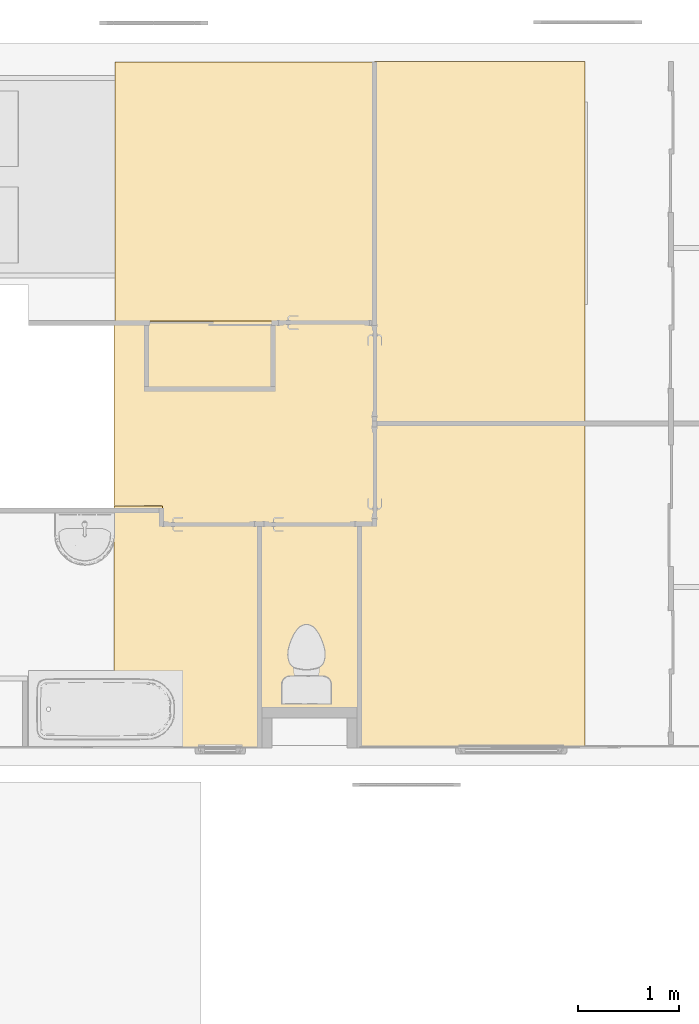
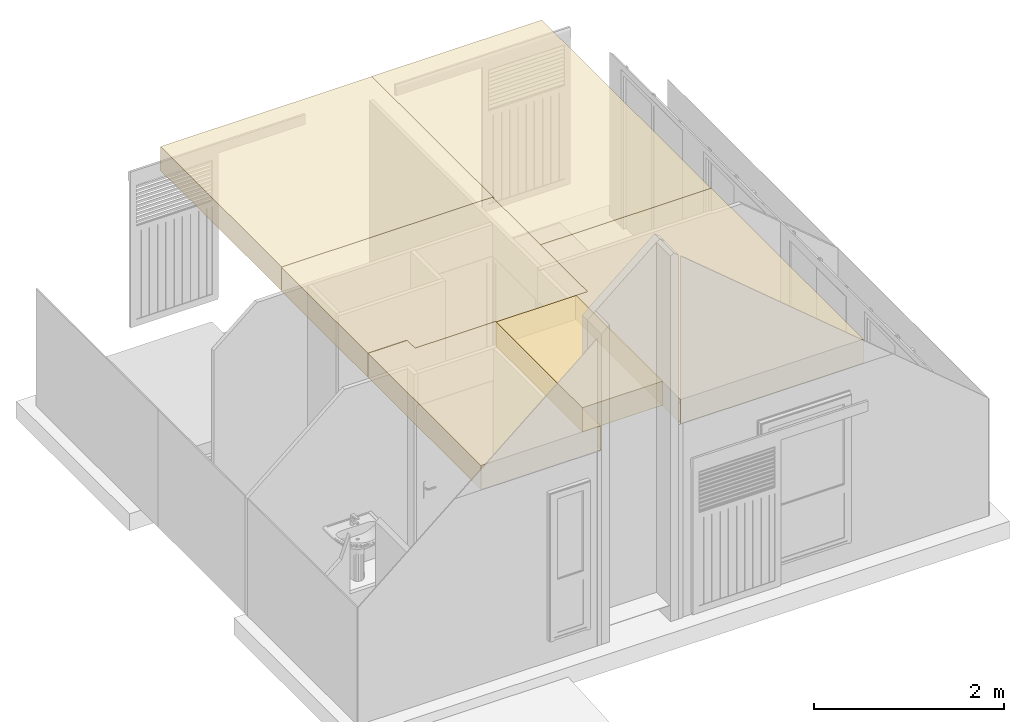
# One storey, part 9 of 11: 6 coverings.
"""IFC2X3 building model written with IfcOpenShell, lengths in metres."""

from ifc_helpers import new_model, entity, si_unit, converted_unit, derived_unit, direction, frame, frame_2d, origin, origin_2d_with_axis, place, context, subcontext, project, spatial, polyline, rectangle, outline, extrude, material, layer, layer_set, layer_usage, type_object, element, save


model = new_model("IFC2X3")

# Units and contexts
model_context = context("Model", 3, precision=1e-05, world=origin(), true_north=direction((6.12303176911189e-17, 1.0)))
body_context = subcontext(model_context, "Body", "Model", "MODEL_VIEW")
ifc_project = project(units=[si_unit("LENGTHUNIT", "METRE"), si_unit("AREAUNIT", "SQUARE_METRE"), si_unit("VOLUMEUNIT", "CUBIC_METRE"), converted_unit("PLANEANGLEUNIT", "DEGREE", entity("IfcRatioMeasure", 0.0174532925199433), si_unit("PLANEANGLEUNIT", "RADIAN"), dimensions=[0, 0, 0, 0, 0, 0, 0]), si_unit("MASSUNIT", "GRAM", prefix="KILO"), derived_unit("MASSDENSITYUNIT", [(si_unit("MASSUNIT", "GRAM", prefix="KILO"), 1), (si_unit("LENGTHUNIT", "METRE"), -3)]), derived_unit("MOMENTOFINERTIAUNIT", [(si_unit("LENGTHUNIT", "METRE"), 4)]), si_unit("TIMEUNIT", "SECOND"), si_unit("FREQUENCYUNIT", "HERTZ"), si_unit("THERMODYNAMICTEMPERATUREUNIT", "DEGREE_CELSIUS"), derived_unit("THERMALTRANSMITTANCEUNIT", [(si_unit("MASSUNIT", "GRAM", prefix="KILO"), 1), (si_unit("THERMODYNAMICTEMPERATUREUNIT", "KELVIN"), -1), (si_unit("TIMEUNIT", "SECOND"), -3)]), derived_unit("VOLUMETRICFLOWRATEUNIT", [(si_unit("LENGTHUNIT", "METRE"), 3), (si_unit("TIMEUNIT", "SECOND"), -1)]), si_unit("ELECTRICCURRENTUNIT", "AMPERE"), si_unit("ELECTRICVOLTAGEUNIT", "VOLT"), si_unit("POWERUNIT", "WATT"), si_unit("FORCEUNIT", "NEWTON", prefix="KILO"), si_unit("ILLUMINANCEUNIT", "LUX"), si_unit("LUMINOUSFLUXUNIT", "LUMEN"), si_unit("LUMINOUSINTENSITYUNIT", "CANDELA"), derived_unit("USERDEFINED", [(si_unit("MASSUNIT", "GRAM", prefix="KILO"), -1), (si_unit("LENGTHUNIT", "METRE"), -2), (si_unit("TIMEUNIT", "SECOND"), 3), (si_unit("LUMINOUSFLUXUNIT", "LUMEN"), 1)]), derived_unit("LINEARVELOCITYUNIT", [(si_unit("LENGTHUNIT", "METRE"), 1), (si_unit("TIMEUNIT", "SECOND"), -1)]), si_unit("PRESSUREUNIT", "PASCAL"), derived_unit("USERDEFINED", [(si_unit("LENGTHUNIT", "METRE"), -2), (si_unit("MASSUNIT", "GRAM", prefix="KILO"), 1), (si_unit("TIMEUNIT", "SECOND"), -2)]), derived_unit("LINEARFORCEUNIT", [(si_unit("MASSUNIT", "GRAM", prefix="KILO"), 1), (si_unit("LENGTHUNIT", "METRE"), 1), (si_unit("TIMEUNIT", "SECOND"), -2), (si_unit("LENGTHUNIT", "METRE"), -1)]), derived_unit("PLANARFORCEUNIT", [(si_unit("MASSUNIT", "GRAM", prefix="KILO"), 1), (si_unit("LENGTHUNIT", "METRE"), 1), (si_unit("TIMEUNIT", "SECOND"), -2), (si_unit("LENGTHUNIT", "METRE"), -2)])], contexts=[model_context])

# Site, building, storey
site_placement = place(None, origin())
site = spatial("IfcSite", under=ifc_project, at=site_placement, Name="Surface", CompositionType="ELEMENT")
building_placement = place(site_placement, origin())
building = spatial("IfcBuilding", under=site, at=building_placement, CompositionType="ELEMENT")
storey_placement = place(building_placement, frame((0.0, 0.0, 2.72)))
storey = spatial("IfcBuildingStorey", under=building, at=storey_placement, Name="02 ETG", CompositionType="ELEMENT", Elevation=2.72)

# Coverings
ifc_material_1 = material(Name="Isolant - laine minérale")
ifc_layer_1 = layer(ifc_material_1, 0.1)
ifc_material_2 = material(Name="Maçonnerie - Isolant")
ifc_layer_2 = layer(ifc_material_2, 0.2)
ifc_material_3 = material(Name="Placoplâtre de gypse")
ifc_layer_3 = layer(ifc_material_3, 0.01)
ifc_layer_set = layer_set([ifc_layer_1, ifc_layer_2, ifc_layer_3], Name="Plafond composé:Plafond 200 + 100 + B.A13")
ifc_layer_usage_1 = layer_usage(ifc_layer_set, "AXIS3", "POSITIVE", 0.0)
covering_type_1 = type_object("IfcCoveringType", Name="Plafond composé:Plafond 200 + 100 + B.A13", PredefinedType="CEILING")
covering_1_placement = place(storey_placement, origin())
element("IfcCovering", 1, at=covering_1_placement, inside=storey, type_object=covering_type_1, material=ifc_layer_usage_1, Name="Plafond composé:Plafond 200 + 100 + B.A13", ObjectType="Plafond composé:Plafond 200 + 100 + B.A13", PredefinedType="CEILING", context=body_context, shape_type="SweptSolid", body=[
    extrude(rectangle(XDim=2.08, YDim=3.56900000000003, at=frame_2d((-1.11022302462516e-15, 0.0), x_axis=(1.0, 0.0))), frame((10.8515615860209, 1.65853904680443, 2.49499999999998), z_axis=(0.0, 0.0, 1.0), x_axis=(-1.0, 0.0, 0.0)), (0.0, 0.0, 1.0), 0.31),
])
ifc_layer_usage_2 = layer_usage(ifc_layer_set, "AXIS3", "POSITIVE", 0.0)
covering_type_2 = type_object("IfcCoveringType", Name="Plafond composé:Plafond 200 + 100 + B.A13", PredefinedType="CEILING")
covering_2_placement = place(storey_placement, origin())
element("IfcCovering", 2, at=covering_2_placement, inside=storey, type_object=covering_type_2, material=ifc_layer_usage_2, Name="Plafond composé:Plafond 200 + 100 + B.A13", ObjectType="Plafond composé:Plafond 200 + 100 + B.A13", PredefinedType="CEILING", context=body_context, shape_type="SweptSolid", body=[
    extrude(rectangle(XDim=2.57, YDim=2.57999999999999, at=frame_2d((-5.55111512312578e-16, 1.66533453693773e-15), x_axis=(1.0, 0.0))), frame((8.5365615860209, 2.14903904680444, 2.49499999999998), z_axis=(0.0, 0.0, 1.0), x_axis=(-1.0, 0.0, 0.0)), (0.0, 0.0, 1.0), 0.31),
])
ifc_layer_usage_3 = layer_usage(ifc_layer_set, "AXIS3", "POSITIVE", 0.0)
covering_type_3 = type_object("IfcCoveringType", Name="Plafond composé:Plafond 200 + 100 + B.A13", PredefinedType="CEILING")
covering_3_placement = place(storey_placement, origin())
element("IfcCovering", 3, at=covering_3_placement, inside=storey, type_object=covering_type_3, material=ifc_layer_usage_3, Name="Plafond composé:Plafond 200 + 100 + B.A13", ObjectType="Plafond composé:Plafond 200 + 100 + B.A13", PredefinedType="CEILING", context=body_context, shape_type="SweptSolid", body=[
    extrude(outline(polyline([(-1.5575, -1.275), (1.0125, -1.275), (1.0125, 0.547499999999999), (0.544999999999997, 0.547499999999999), (0.544999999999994, 0.727500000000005), (-1.5575, 0.727499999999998), (-1.5575, -1.275)])), frame((8.25406158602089, -0.395960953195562, 2.5), z_axis=(0.0, 0.0, 1.0), x_axis=(-1.0, 0.0, 0.0)), (0.0, 0.0, 1.0), 0.31),
])
ifc_layer_usage_4 = layer_usage(ifc_layer_set, "AXIS3", "POSITIVE", 0.0)
covering_type_4 = type_object("IfcCoveringType", Name="Plafond composé:Plafond 200 + 100 + B.A13", PredefinedType="CEILING")
covering_4_placement = place(storey_placement, origin())
element("IfcCovering", 4, at=covering_4_placement, inside=storey, type_object=covering_type_4, material=ifc_layer_usage_4, Name="Plafond composé:Plafond 200 + 100 + B.A13", ObjectType="Plafond composé:Plafond 200 + 100 + B.A13", PredefinedType="CEILING", context=body_context, shape_type="SweptSolid", body=[
    extrude(rectangle(XDim=0.98, YDim=1.82, at=origin_2d_with_axis()), frame((9.18656158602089, -2.03346095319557, 2.5), z_axis=(0.0, 0.0, 1.0), x_axis=(-1.0, 0.0, 0.0)), (0.0, 0.0, 1.0), 0.31),
])
ifc_layer_usage_5 = layer_usage(ifc_layer_set, "AXIS3", "POSITIVE", 0.0)
covering_type_5 = type_object("IfcCoveringType", Name="Plafond composé:Plafond 200 + 100 + B.A13", PredefinedType="CEILING")
covering_5_placement = place(storey_placement, origin())
element("IfcCovering", 5, at=covering_5_placement, inside=storey, type_object=covering_type_5, material=ifc_layer_usage_5, Name="Plafond composé:Plafond 200 + 100 + B.A13", ObjectType="Plafond composé:Plafond 200 + 100 + B.A13", PredefinedType="CEILING", context=body_context, shape_type="SweptSolid", body=[
    extrude(outline(polyline([(-0.810833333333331, 0.683333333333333), (-0.810833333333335, -1.53166666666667), (0.64416666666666, -1.53166666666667), (0.644166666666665, 0.848333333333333), (0.166666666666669, 0.848333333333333), (0.166666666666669, 0.683333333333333), (-0.810833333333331, 0.683333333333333)])), frame((7.88572825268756, -1.79679428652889, 2.5), z_axis=(0.0, 0.0, -1.0), x_axis=(-1.0, 0.0, 0.0)), (0.0, 0.0, -1.0), 0.31),
])
ifc_layer_usage_6 = layer_usage(ifc_layer_set, "AXIS3", "POSITIVE", 0.0)
covering_type_6 = type_object("IfcCoveringType", Name="Plafond composé:Plafond 200 + 100 + B.A13", PredefinedType="CEILING")
covering_6_placement = place(storey_placement, origin())
element("IfcCovering", 6, at=covering_6_placement, inside=storey, type_object=covering_type_6, material=ifc_layer_usage_6, Name="Plafond composé:Plafond 200 + 100 + B.A13", ObjectType="Plafond composé:Plafond 200 + 100 + B.A13", PredefinedType="CEILING", context=body_context, shape_type="SweptSolid", body=[
    extrude(outline(polyline([(-1.43499999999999, -1.39749999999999), (0.645000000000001, -1.39749999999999), (0.645000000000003, -0.405000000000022), (0.789999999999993, -0.405000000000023), (0.789999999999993, 1.8025), (-1.43499999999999, 1.80250000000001), (-1.43499999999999, -1.39749999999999)])), frame((10.4565615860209, -1.52846095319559, 2.5), z_axis=(0.0, 0.0, 1.0), x_axis=(-1.0, 0.0, 0.0)), (0.0, 0.0, 1.0), 0.31),
])

save(model, "model.ifc")
